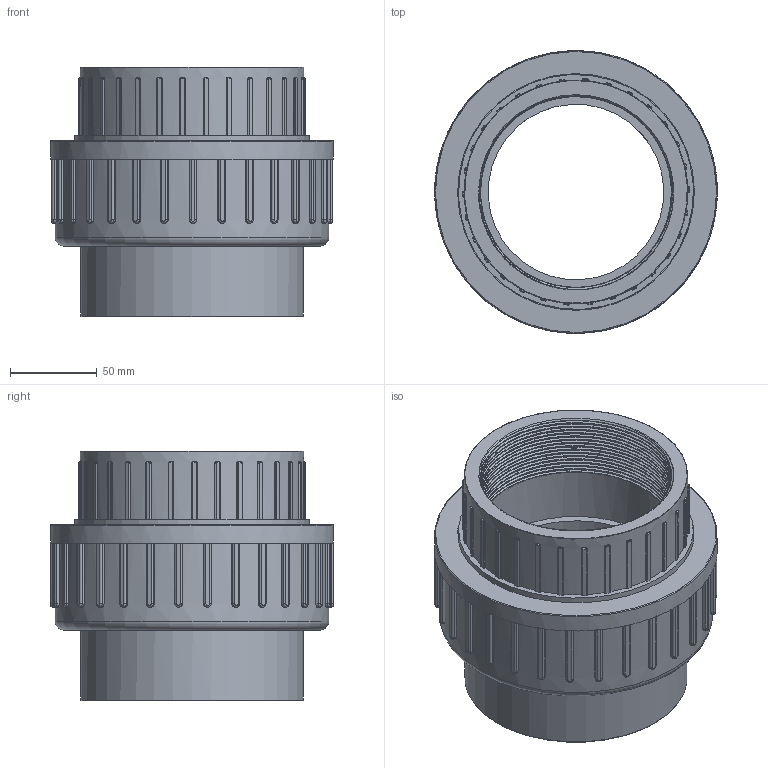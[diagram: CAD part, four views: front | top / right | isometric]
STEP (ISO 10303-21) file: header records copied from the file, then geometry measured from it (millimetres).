
FILE_DESCRIPTION(/* description */ ('','CAx-IF Rec.Pracs.---Representation and Presentation of Product Manufacturing Information (PMI)---3.8---2014-02-18'),/* implementation_level */ '2;1');
FILE_NAME(/* name */ 'C:\Users\POLYPIPE\Desktop\DATASET INVENTOR\LIBRERIA EFFAST\3D_RACCORDI\RGR\3D_RGRBOG\3D_RGRBOG110L (01).stp',/* time_stamp */ '2018-03-08T16:47:12+01:00',/* author */ ('POLYPIPE'),/* organization */ (''),/* preprocessor_version */ 'ST-DEVELOPER v16.1',/* originating_system */ 'Autodesk Inventor 2016',/* authorisation */ '');
FILE_SCHEMA (('AP242_MANAGED_MODEL_BASED_3D_ENGINEERING_MIM_LF { 1 0 10303 442 1 1 4 }'));
Length unit declared in the file: centimetre
Products named in the file (1): 3D_RGRBOG110L
Bounding box: 163 x 163 x 144 mm (x, y, z)
Volume: 925170.4 mm3; surface area: 194599.8 mm2
Topology: 1 solids, 1 shells, 573 faces, 1531 edges, 969 vertices
Faces by surface type: cylinder 251, plane 222, bspline 95, torus 4, cone 1
Full cylindrical faces by diameter (mm): 101.2 x1, 106 x1, 110 x1, 110.072 x1, 128.4 x1, 128.8 x1, 135 x1, 135.472 x1, 136.5 x1, 157.8 x1, 163 x1
Entity records: 31974 total; most frequent: CARTESIAN_POINT 17300, ORIENTED_EDGE 3026, DIRECTION 2935, EDGE_CURVE 1513, AXIS2_PLACEMENT_3D 1076, VERTEX_POINT 966, LINE 783, VECTOR 783
